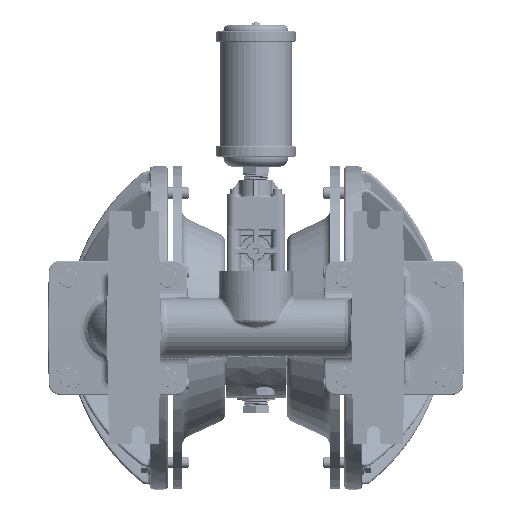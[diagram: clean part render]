
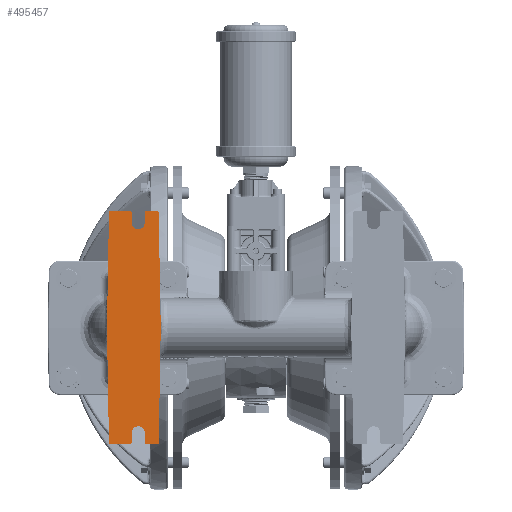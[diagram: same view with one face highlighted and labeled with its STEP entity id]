
A CAD part, front view. The second image highlights one B-rep face of the part: STEP entity #495457.
In plain terms, the highlighted planar face has unit normal (0, -1, 0).
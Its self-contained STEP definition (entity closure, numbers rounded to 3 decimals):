
#233361=CARTESIAN_POINT('',(-5.051,-12.865,4.5));
#233362=DIRECTION('',(0.,-1.,0.));
#233363=DIRECTION('',(-1.,0.,-0.009));
#233364=AXIS2_PLACEMENT_3D('',#233361,#233362,#233363);
#233518=DIRECTION('',(-1.,0.,0.));
#233519=VECTOR('',#233518,0.477);
#233520=CARTESIAN_POINT('',(-4.23,-12.865,5.));
#233521=LINE('',#233520,#233519);
#233534=CARTESIAN_POINT('',(-4.707,-12.865,4.94));
#233535=DIRECTION('',(0.,1.,0.));
#233536=DIRECTION('',(-1.,0.,0.009));
#233537=AXIS2_PLACEMENT_3D('',#233534,#233535,#233536);
#233544=DIRECTION('',(-0.009,0.,-1.));
#233545=VECTOR('',#233544,0.443);
#233546=CARTESIAN_POINT('',(-4.767,-12.865,4.941));
#233547=LINE('',#233546,#233545);
#234038=DIRECTION('',(0.017,0.,1.));
#234039=VECTOR('',#234038,4.942);
#234040=CARTESIAN_POINT('',(-6.388,-12.865,0.));
#234041=LINE('',#234040,#234039);
#234258=DIRECTION('',(0.017,0.,-1.));
#234259=VECTOR('',#234258,4.942);
#234260=CARTESIAN_POINT('',(-6.388,-12.865,0.));
#234261=LINE('',#234260,#234259);
#234474=CARTESIAN_POINT('',(-6.242,-12.865,-4.94));
#234475=DIRECTION('',(0.,1.,0.));
#234476=DIRECTION('',(0.,0.,-1.));
#234477=AXIS2_PLACEMENT_3D('',#234474,#234475,#234476);
#234484=DIRECTION('',(1.,0.,0.));
#234485=VECTOR('',#234484,0.847);
#234486=CARTESIAN_POINT('',(-6.242,-12.865,-5.));
#234487=LINE('',#234486,#234485);
#234500=CARTESIAN_POINT('',(-5.395,-12.865,-4.94));
#234501=DIRECTION('',(0.,1.,0.));
#234502=DIRECTION('',(1.,0.,-0.009));
#234503=AXIS2_PLACEMENT_3D('',#234500,#234501,#234502);
#234510=DIRECTION('',(0.009,0.,1.));
#234511=VECTOR('',#234510,0.443);
#234512=CARTESIAN_POINT('',(-5.335,-12.865,-4.941));
#234513=LINE('',#234512,#234511);
#234526=CARTESIAN_POINT('',(-5.051,-12.865,-4.5));
#234527=DIRECTION('',(0.,-1.,0.));
#234528=DIRECTION('',(1.,0.,0.009));
#234529=AXIS2_PLACEMENT_3D('',#234526,#234527,#234528);
#234683=DIRECTION('',(0.009,0.,-1.));
#234684=VECTOR('',#234683,0.443);
#234685=CARTESIAN_POINT('',(-4.771,-12.865,-4.498));
#234686=LINE('',#234685,#234684);
#234695=CARTESIAN_POINT('',(-4.707,-12.865,-4.94));
#234696=DIRECTION('',(0.,1.,0.));
#234697=DIRECTION('',(0.,0.,-1.));
#234698=AXIS2_PLACEMENT_3D('',#234695,#234696,#234697);
#234705=DIRECTION('',(1.,0.,0.));
#234706=VECTOR('',#234705,0.477);
#234707=CARTESIAN_POINT('',(-4.707,-12.865,-5.));
#234708=LINE('',#234707,#234706);
#234721=CARTESIAN_POINT('',(-4.23,-12.865,-4.94));
#234722=DIRECTION('',(0.,-1.,0.));
#234723=DIRECTION('',(0.,0.,-1.));
#234724=AXIS2_PLACEMENT_3D('',#234721,#234722,#234723);
#234731=DIRECTION('',(-0.017,0.,-1.));
#234732=VECTOR('',#234731,4.942);
#234733=CARTESIAN_POINT('',(-4.084,-12.865,0.));
#234734=LINE('',#234733,#234732);
#234817=DIRECTION('',(-0.017,0.,1.));
#234818=VECTOR('',#234817,4.942);
#234819=CARTESIAN_POINT('',(-4.084,-12.865,0.));
#234820=LINE('',#234819,#234818);
#234907=CARTESIAN_POINT('',(-4.23,-12.865,4.94));
#234908=DIRECTION('',(0.,1.,0.));
#234909=DIRECTION('',(0.,0.,1.));
#234910=AXIS2_PLACEMENT_3D('',#234907,#234908,#234909);
#476418=CARTESIAN_POINT('',(-6.242,-12.865,4.94));
#476419=DIRECTION('',(0.,-1.,0.));
#476420=DIRECTION('',(0.,0.,1.));
#476421=AXIS2_PLACEMENT_3D('',#476418,#476419,#476420);
#476443=CARTESIAN_POINT('',(-5.395,-12.865,4.94));
#476444=DIRECTION('',(0.,1.,0.));
#476445=DIRECTION('',(0.,0.,1.));
#476446=AXIS2_PLACEMENT_3D('',#476443,#476444,#476445);
#476453=DIRECTION('',(-1.,0.,0.));
#476454=VECTOR('',#476453,0.847);
#476455=CARTESIAN_POINT('',(-5.395,-12.865,5.));
#476456=LINE('',#476455,#476454);
#476469=DIRECTION('',(-0.009,0.,1.));
#476470=VECTOR('',#476469,0.443);
#476471=CARTESIAN_POINT('',(-5.331,-12.865,4.498));
#476472=LINE('',#476471,#476470);
#489310=CARTESIAN_POINT('',(-4.23,-12.865,5.));
#489311=CARTESIAN_POINT('',(-4.707,-12.865,5.));
#489312=VERTEX_POINT('',#489310);
#489313=VERTEX_POINT('',#489311);
#489314=CARTESIAN_POINT('',(-5.331,-12.865,4.498));
#489315=CARTESIAN_POINT('',(-4.771,-12.865,4.498));
#489316=VERTEX_POINT('',#489314);
#489317=VERTEX_POINT('',#489315);
#489318=CARTESIAN_POINT('',(-5.395,-12.865,5.));
#489319=CARTESIAN_POINT('',(-6.242,-12.865,5.));
#489320=VERTEX_POINT('',#489318);
#489321=VERTEX_POINT('',#489319);
#489322=CARTESIAN_POINT('',(-6.242,-12.865,-5.));
#489323=CARTESIAN_POINT('',(-5.395,-12.865,-5.));
#489324=VERTEX_POINT('',#489322);
#489325=VERTEX_POINT('',#489323);
#489326=CARTESIAN_POINT('',(-4.771,-12.865,-4.498));
#489327=CARTESIAN_POINT('',(-5.331,-12.865,-4.498));
#489328=VERTEX_POINT('',#489326);
#489329=VERTEX_POINT('',#489327);
#489330=CARTESIAN_POINT('',(-4.707,-12.865,-5.));
#489331=CARTESIAN_POINT('',(-4.23,-12.865,-5.));
#489332=VERTEX_POINT('',#489330);
#489333=VERTEX_POINT('',#489331);
#489334=CARTESIAN_POINT('',(-4.767,-12.865,4.941));
#489335=VERTEX_POINT('',#489334);
#489336=CARTESIAN_POINT('',(-5.335,-12.865,4.941));
#489337=VERTEX_POINT('',#489336);
#489338=CARTESIAN_POINT('',(-5.335,-12.865,-4.941));
#489339=VERTEX_POINT('',#489338);
#489340=CARTESIAN_POINT('',(-4.767,-12.865,-4.941));
#489341=VERTEX_POINT('',#489340);
#489342=CARTESIAN_POINT('',(-6.388,-12.865,0.));
#489343=CARTESIAN_POINT('',(-6.302,-12.865,4.941));
#489344=VERTEX_POINT('',#489342);
#489345=VERTEX_POINT('',#489343);
#489346=CARTESIAN_POINT('',(-4.084,-12.865,0.));
#489347=CARTESIAN_POINT('',(-4.17,-12.865,-4.941));
#489348=VERTEX_POINT('',#489346);
#489349=VERTEX_POINT('',#489347);
#489653=CARTESIAN_POINT('',(-6.302,-12.865,-4.941));
#489654=VERTEX_POINT('',#489653);
#489657=CARTESIAN_POINT('',(-4.17,-12.865,4.941));
#489658=VERTEX_POINT('',#489657);
#495407=CARTESIAN_POINT('',(6.549,-12.865,-6.));
#495408=DIRECTION('',(0.,1.,0.));
#495409=DIRECTION('',(-1.,0.,0.));
#495410=AXIS2_PLACEMENT_3D('',#495407,#495408,#495409);
#495411=PLANE('',#495410);
#495413=ORIENTED_EDGE('',*,*,#495412,.F.);
#495415=ORIENTED_EDGE('',*,*,#495414,.T.);
#495417=ORIENTED_EDGE('',*,*,#495416,.F.);
#495419=ORIENTED_EDGE('',*,*,#495418,.T.);
#495421=ORIENTED_EDGE('',*,*,#495420,.F.);
#495423=ORIENTED_EDGE('',*,*,#495422,.F.);
#495425=ORIENTED_EDGE('',*,*,#495424,.T.);
#495427=ORIENTED_EDGE('',*,*,#495426,.F.);
#495429=ORIENTED_EDGE('',*,*,#495428,.T.);
#495431=ORIENTED_EDGE('',*,*,#495430,.F.);
#495433=ORIENTED_EDGE('',*,*,#495432,.T.);
#495435=ORIENTED_EDGE('',*,*,#495434,.F.);
#495437=ORIENTED_EDGE('',*,*,#495436,.T.);
#495439=ORIENTED_EDGE('',*,*,#495438,.F.);
#495441=ORIENTED_EDGE('',*,*,#495440,.T.);
#495443=ORIENTED_EDGE('',*,*,#495442,.F.);
#495445=ORIENTED_EDGE('',*,*,#495444,.F.);
#495447=ORIENTED_EDGE('',*,*,#495446,.T.);
#495449=ORIENTED_EDGE('',*,*,#495448,.F.);
#495450=ORIENTED_EDGE('',*,*,#495396,.T.);
#495452=ORIENTED_EDGE('',*,*,#495451,.F.);
#495454=ORIENTED_EDGE('',*,*,#495453,.T.);
#495455=EDGE_LOOP('',(#495413,#495415,#495417,#495419,#495421,#495423,#495425,
#495427,#495429,#495431,#495433,#495435,#495437,#495439,#495441,#495443,#495445,
#495447,#495449,#495450,#495452,#495454));
#495456=FACE_OUTER_BOUND('',#495455,.F.);
#495457=ADVANCED_FACE('',(#495456),#495411,.F.);
#233365=CIRCLE('',#233364,0.28);
#233538=CIRCLE('',#233537,0.06);
#234478=CIRCLE('',#234477,0.06);
#234504=CIRCLE('',#234503,0.06);
#234530=CIRCLE('',#234529,0.28);
#234699=CIRCLE('',#234698,0.06);
#234725=CIRCLE('',#234724,0.06);
#234911=CIRCLE('',#234910,0.06);
#476422=CIRCLE('',#476421,0.06);
#476447=CIRCLE('',#476446,0.06);
#495396=EDGE_CURVE('',#489316,#489317,#233365,.T.);
#495412=EDGE_CURVE('',#489312,#489313,#233521,.T.);
#495414=EDGE_CURVE('',#489312,#489658,#234911,.T.);
#495416=EDGE_CURVE('',#489348,#489658,#234820,.T.);
#495418=EDGE_CURVE('',#489348,#489349,#234734,.T.);
#495420=EDGE_CURVE('',#489333,#489349,#234725,.T.);
#495422=EDGE_CURVE('',#489332,#489333,#234708,.T.);
#495424=EDGE_CURVE('',#489332,#489341,#234699,.T.);
#495426=EDGE_CURVE('',#489328,#489341,#234686,.T.);
#495428=EDGE_CURVE('',#489328,#489329,#234530,.T.);
#495430=EDGE_CURVE('',#489339,#489329,#234513,.T.);
#495432=EDGE_CURVE('',#489339,#489325,#234504,.T.);
#495434=EDGE_CURVE('',#489324,#489325,#234487,.T.);
#495436=EDGE_CURVE('',#489324,#489654,#234478,.T.);
#495438=EDGE_CURVE('',#489344,#489654,#234261,.T.);
#495440=EDGE_CURVE('',#489344,#489345,#234041,.T.);
#495442=EDGE_CURVE('',#489321,#489345,#476422,.T.);
#495444=EDGE_CURVE('',#489320,#489321,#476456,.T.);
#495446=EDGE_CURVE('',#489320,#489337,#476447,.T.);
#495448=EDGE_CURVE('',#489316,#489337,#476472,.T.);
#495451=EDGE_CURVE('',#489335,#489317,#233547,.T.);
#495453=EDGE_CURVE('',#489335,#489313,#233538,.T.);
